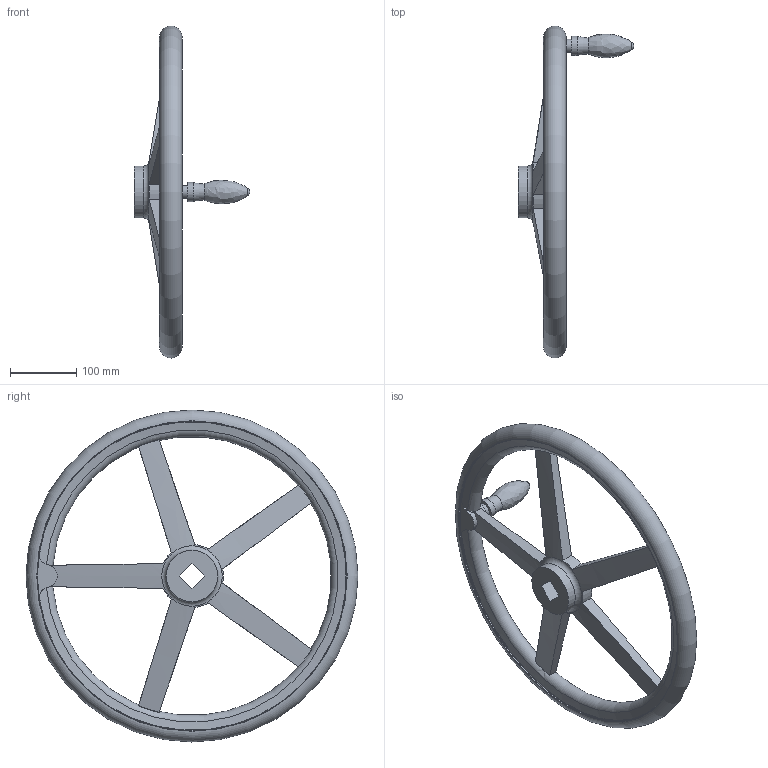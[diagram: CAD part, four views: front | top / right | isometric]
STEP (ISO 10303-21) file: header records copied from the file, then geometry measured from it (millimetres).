
FILE_DESCRIPTION( ( 'STEP AP203' ), '1' );
FILE_NAME( 'C:/Temp/Ganter_Step_05_03_2020/data/1_3/din_950/din_950_v/din_950_v_d/Handwheel DIN 950-AL-500-V27-D.stp', '2020-03-05T10:31:42', ( 'License CC BY-ND 4.0' ), ( 'CADENAS' ), ' ', 'PARTsolutions', ' ' );
FILE_SCHEMA( ( 'CONFIG_CONTROL_DESIGN' ) );
Length unit declared in the file: millimetre
Products named in the file (1): _Handwheel DIN 950-AL-500-V27-D
Bounding box: 174 x 499.98 x 499.98 mm (x, y, z)
Volume: 2164731.1 mm3; surface area: 289705.6 mm2
Topology: 1 solids, 1 shells, 63 faces, 186 edges, 120 vertices
Faces by surface type: torus 21, plane 19, cylinder 17, cone 4, bspline 1, sphere 1
Full cylindrical faces by diameter (mm): 20 x1, 29 x1, 78 x2, 466 x2
Entity records: 2577 total; most frequent: CARTESIAN_POINT 1027, ORIENTED_EDGE 324, DIRECTION 280, EDGE_CURVE 162, AXIS2_PLACEMENT_3D 127, VERTEX_POINT 116, EDGE_LOOP 88, FACE_OUTER_BOUND 78
